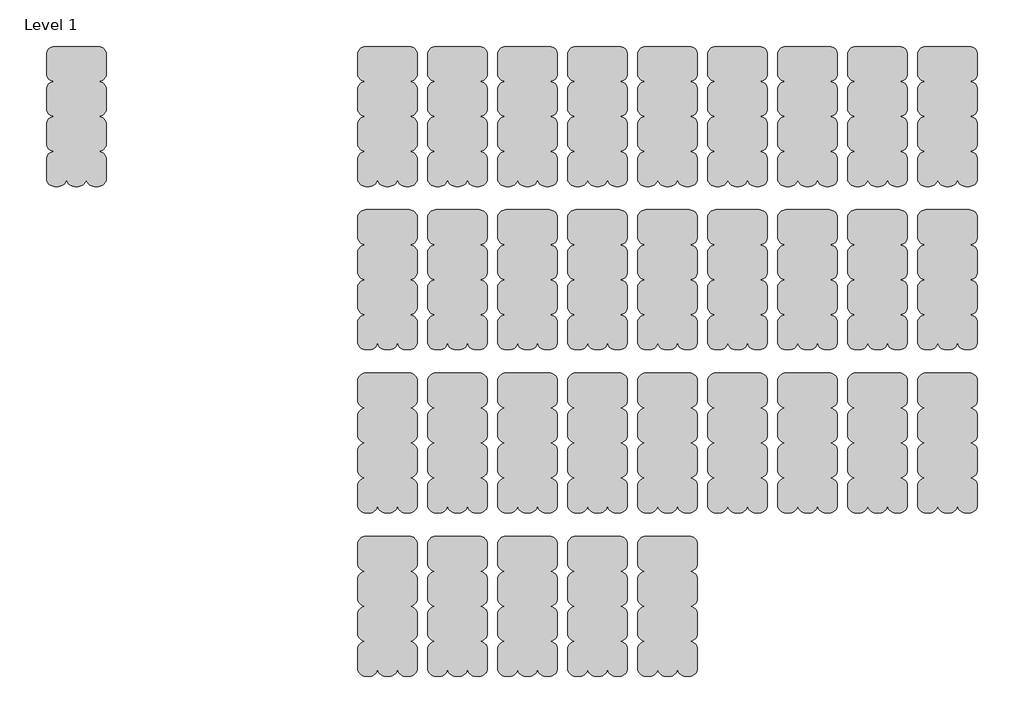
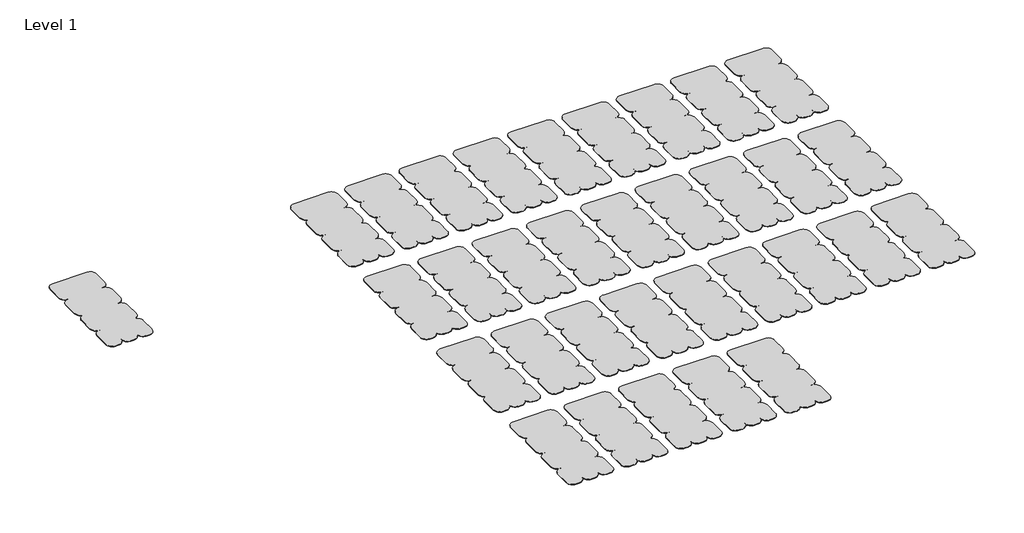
# One storey: 33 proxies.
"""IFC4 building model written with IfcOpenShell, lengths in millimetres."""

from ifc_helpers import new_model, si_unit, origin, place, context, project, spatial, transform, mapped, element, save
from components import proxy_101_frost_12_mm_bd352d98

model = new_model("IFC4")

# Units and contexts
model_context = context("Model", 3, world=origin())
ifc_project = project(units=[si_unit("LENGTHUNIT", "METRE", prefix="MILLI")], contexts=[model_context])

# Site, building, storey
site = spatial("IfcSite", under=ifc_project)
building = spatial("IfcBuilding", under=site)
storey = spatial("IfcBuildingStorey", under=building, Name="Level 1", Elevation=0.0)

# Proxies
placement = place(None, origin())
proxy_101_frost_12_mm_shape = proxy_101_frost_12_mm_bd352d98(model_context)
element("IfcBuildingElementProxy", 1, Name="Wall-Panel-Kirei_USA-EchoScreen-Fifty3_Screen : 108 Sunshine - 12 mm", ObjectType="Wall-Panel-Kirei_USA-EchoScreen-Fifty3_Screen : 108 Sunshine - 12 mm", at=placement, inside=storey, context=model_context, shape_type="MappedRepresentation", body=[
    mapped(proxy_101_frost_12_mm_shape, transform((1981.2, -21640.8, 0.0), x_axis=(1.0, 0.0, 0.0), y_axis=(0.0, 1.0, 0.0), z_axis=(0.0, 0.0, 1.0))),
])
element("IfcBuildingElementProxy", 2, Name="Wall-Panel-Kirei_USA-EchoScreen-Fifty3_Screen : 167 Cinnamon - 12 mm", ObjectType="Wall-Panel-Kirei_USA-EchoScreen-Fifty3_Screen : 167 Cinnamon - 12 mm", at=placement, inside=storey, context=model_context, shape_type="MappedRepresentation", body=[
    mapped(proxy_101_frost_12_mm_shape, transform((4724.4, -21640.8, 0.0), x_axis=(1.0, 0.0, 0.0), y_axis=(0.0, 1.0, 0.0), z_axis=(0.0, 0.0, 1.0))),
])
element("IfcBuildingElementProxy", 3, Name="Wall-Panel-Kirei_USA-EchoScreen-Fifty3_Screen : 274 Orchid - 12 mm", ObjectType="Wall-Panel-Kirei_USA-EchoScreen-Fifty3_Screen : 274 Orchid - 12 mm", at=placement, inside=storey, context=model_context, shape_type="MappedRepresentation", body=[
    mapped(proxy_101_frost_12_mm_shape, transform((8839.2, -21640.8, 0.0), x_axis=(1.0, 0.0, 0.0), y_axis=(0.0, 1.0, 0.0), z_axis=(0.0, 0.0, 1.0))),
])
element("IfcBuildingElementProxy", 4, Name="Wall-Panel-Kirei_USA-EchoScreen-Fifty3_Screen : 295 Mandarin - 12 mm", ObjectType="Wall-Panel-Kirei_USA-EchoScreen-Fifty3_Screen : 295 Mandarin - 12 mm", at=placement, inside=storey, context=model_context, shape_type="MappedRepresentation", body=[
    mapped(proxy_101_frost_12_mm_shape, transform((11582.4, -21640.8, 0.0), x_axis=(1.0, 0.0, 0.0), y_axis=(0.0, 1.0, 0.0), z_axis=(0.0, 0.0, 1.0))),
])
element("IfcBuildingElementProxy", 5, Name="Wall-Panel-Kirei_USA-EchoScreen-Fifty3_Screen : 330 Ivy - 12 mm", ObjectType="Wall-Panel-Kirei_USA-EchoScreen-Fifty3_Screen : 330 Ivy - 12 mm", at=placement, inside=storey, context=model_context, shape_type="MappedRepresentation", body=[
    mapped(proxy_101_frost_12_mm_shape, transform((609.6, -24841.2, 0.0), x_axis=(1.0, 0.0, 0.0), y_axis=(0.0, 1.0, 0.0), z_axis=(0.0, 0.0, 1.0))),
])
element("IfcBuildingElementProxy", 6, Name="Wall-Panel-Kirei_USA-EchoScreen-Fifty3_Screen : 338 Jade - 12 mm", ObjectType="Wall-Panel-Kirei_USA-EchoScreen-Fifty3_Screen : 338 Jade - 12 mm", at=placement, inside=storey, context=model_context, shape_type="MappedRepresentation", body=[
    mapped(proxy_101_frost_12_mm_shape, transform((1981.2, -24841.2, 0.0), x_axis=(1.0, 0.0, 0.0), y_axis=(0.0, 1.0, 0.0), z_axis=(0.0, 0.0, 1.0))),
])
element("IfcBuildingElementProxy", 7, Name="Wall-Panel-Kirei_USA-EchoScreen-Fifty3_Screen : 349 Vineyard - 12 mm", ObjectType="Wall-Panel-Kirei_USA-EchoScreen-Fifty3_Screen : 349 Vineyard - 12 mm", at=placement, inside=storey, context=model_context, shape_type="MappedRepresentation", body=[
    mapped(proxy_101_frost_12_mm_shape, transform((3352.8, -24841.2, 0.0), x_axis=(1.0, 0.0, 0.0), y_axis=(0.0, 1.0, 0.0), z_axis=(0.0, 0.0, 1.0))),
])
element("IfcBuildingElementProxy", 8, Name="Wall-Panel-Kirei_USA-EchoScreen-Fifty3_Screen : 551 Duck Egg - 12 mm", ObjectType="Wall-Panel-Kirei_USA-EchoScreen-Fifty3_Screen : 551 Duck Egg - 12 mm", at=placement, inside=storey, context=model_context, shape_type="MappedRepresentation", body=[
    mapped(proxy_101_frost_12_mm_shape, transform((10210.8, -28041.6, 0.0), x_axis=(1.0, 0.0, 0.0), y_axis=(0.0, 1.0, 0.0), z_axis=(0.0, 0.0, 1.0))),
])
element("IfcBuildingElementProxy", 9, Name="Wall-Panel-Kirei_USA-EchoScreen-Fifty3_Screen : 579 Pistachio - 12 mm", ObjectType="Wall-Panel-Kirei_USA-EchoScreen-Fifty3_Screen : 579 Pistachio - 12 mm", at=placement, inside=storey, context=model_context, shape_type="MappedRepresentation", body=[
    mapped(proxy_101_frost_12_mm_shape, transform((609.6, -31242.0, 0.0), x_axis=(1.0, 0.0, 0.0), y_axis=(0.0, 1.0, 0.0), z_axis=(0.0, 0.0, 1.0))),
])
element("IfcBuildingElementProxy", 10, Name="Wall-Panel-Kirei_USA-EchoScreen-Fifty3_Screen : 633 Pacific - 12 mm", ObjectType="Wall-Panel-Kirei_USA-EchoScreen-Fifty3_Screen : 633 Pacific - 12 mm", at=placement, inside=storey, context=model_context, shape_type="MappedRepresentation", body=[
    mapped(proxy_101_frost_12_mm_shape, transform((3352.8, -31242.0, 0.0), x_axis=(1.0, 0.0, 0.0), y_axis=(0.0, 1.0, 0.0), z_axis=(0.0, 0.0, 1.0))),
])
element("IfcBuildingElementProxy", 11, Name="Wall-Panel-Kirei_USA-EchoScreen-Fifty3_Screen : 660 Coronet - 12 mm", ObjectType="Wall-Panel-Kirei_USA-EchoScreen-Fifty3_Screen : 660 Coronet - 12 mm", at=placement, inside=storey, context=model_context, shape_type="MappedRepresentation", body=[
    mapped(proxy_101_frost_12_mm_shape, transform((4724.4, -31242.0, 0.0), x_axis=(1.0, 0.0, 0.0), y_axis=(0.0, 1.0, 0.0), z_axis=(0.0, 0.0, 1.0))),
])
element("IfcBuildingElementProxy", 12, Name="Wall-Panel-Kirei_USA-EchoScreen-Fifty3_Screen : 101 Frost - 12 mm", ObjectType="Wall-Panel-Kirei_USA-EchoScreen-Fifty3_Screen : 101 Frost - 12 mm", at=placement, inside=storey, context=model_context, shape_type="MappedRepresentation", body=[
    mapped(proxy_101_frost_12_mm_shape, transform((609.6, -21640.8, 0.0), x_axis=(1.0, 0.0, 0.0), y_axis=(0.0, 1.0, 0.0), z_axis=(0.0, 0.0, 1.0))),
])
element("IfcBuildingElementProxy", 13, Name="Wall-Panel-Kirei_USA-EchoScreen-Fifty3_Screen : 101 Frost - 12 mm", ObjectType="Wall-Panel-Kirei_USA-EchoScreen-Fifty3_Screen : 101 Frost - 12 mm", at=placement, inside=storey, context=model_context, shape_type="MappedRepresentation", body=[
    mapped(proxy_101_frost_12_mm_shape, transform((-5486.4, -21640.8, 0.0), x_axis=(1.0, 0.0, 0.0), y_axis=(0.0, 1.0, 0.0), z_axis=(0.0, 0.0, 1.0))),
])
element("IfcBuildingElementProxy", 14, Name="Wall-Panel-Kirei_USA-EchoScreen-Fifty3_Screen : 124 Ochre - 12 mm", ObjectType="Wall-Panel-Kirei_USA-EchoScreen-Fifty3_Screen : 124 Ochre - 12 mm", at=placement, inside=storey, context=model_context, shape_type="MappedRepresentation", body=[
    mapped(proxy_101_frost_12_mm_shape, transform((3352.8, -21640.8, 0.0), x_axis=(1.0, 0.0, 0.0), y_axis=(0.0, 1.0, 0.0), z_axis=(0.0, 0.0, 1.0))),
])
element("IfcBuildingElementProxy", 15, Name="Wall-Panel-Kirei_USA-EchoScreen-Fifty3_Screen : 193 Rouge - 12 mm", ObjectType="Wall-Panel-Kirei_USA-EchoScreen-Fifty3_Screen : 193 Rouge - 12 mm", at=placement, inside=storey, context=model_context, shape_type="MappedRepresentation", body=[
    mapped(proxy_101_frost_12_mm_shape, transform((6096.0, -21640.8, 0.0), x_axis=(1.0, 0.0, 0.0), y_axis=(0.0, 1.0, 0.0), z_axis=(0.0, 0.0, 1.0))),
])
element("IfcBuildingElementProxy", 16, Name="Wall-Panel-Kirei_USA-EchoScreen-Fifty3_Screen : 269 Wine - 12 mm", ObjectType="Wall-Panel-Kirei_USA-EchoScreen-Fifty3_Screen : 269 Wine - 12 mm", at=placement, inside=storey, context=model_context, shape_type="MappedRepresentation", body=[
    mapped(proxy_101_frost_12_mm_shape, transform((7467.6, -21640.8, 0.0), x_axis=(1.0, 0.0, 0.0), y_axis=(0.0, 1.0, 0.0), z_axis=(0.0, 0.0, 1.0))),
])
element("IfcBuildingElementProxy", 17, Name="Wall-Panel-Kirei_USA-EchoScreen-Fifty3_Screen : 276 Lavender - 12 mm", ObjectType="Wall-Panel-Kirei_USA-EchoScreen-Fifty3_Screen : 276 Lavender - 12 mm", at=placement, inside=storey, context=model_context, shape_type="MappedRepresentation", body=[
    mapped(proxy_101_frost_12_mm_shape, transform((10210.8, -21640.8, 0.0), x_axis=(1.0, 0.0, 0.0), y_axis=(0.0, 1.0, 0.0), z_axis=(0.0, 0.0, 1.0))),
])
element("IfcBuildingElementProxy", 18, Name="Wall-Panel-Kirei_USA-EchoScreen-Fifty3_Screen : 365 Navy - 12 mm", ObjectType="Wall-Panel-Kirei_USA-EchoScreen-Fifty3_Screen : 365 Navy - 12 mm", at=placement, inside=storey, context=model_context, shape_type="MappedRepresentation", body=[
    mapped(proxy_101_frost_12_mm_shape, transform((4724.4, -24841.2, 0.0), x_axis=(1.0, 0.0, 0.0), y_axis=(0.0, 1.0, 0.0), z_axis=(0.0, 0.0, 1.0))),
])
element("IfcBuildingElementProxy", 19, Name="Wall-Panel-Kirei_USA-EchoScreen-Fifty3_Screen : 381 Lime Splice - 12 mm", ObjectType="Wall-Panel-Kirei_USA-EchoScreen-Fifty3_Screen : 381 Lime Splice - 12 mm", at=placement, inside=storey, context=model_context, shape_type="MappedRepresentation", body=[
    mapped(proxy_101_frost_12_mm_shape, transform((6096.0, -24841.2, 0.0), x_axis=(1.0, 0.0, 0.0), y_axis=(0.0, 1.0, 0.0), z_axis=(0.0, 0.0, 1.0))),
])
element("IfcBuildingElementProxy", 20, Name="Wall-Panel-Kirei_USA-EchoScreen-Fifty3_Screen : 384 Olive - 12 mm", ObjectType="Wall-Panel-Kirei_USA-EchoScreen-Fifty3_Screen : 384 Olive - 12 mm", at=placement, inside=storey, context=model_context, shape_type="MappedRepresentation", body=[
    mapped(proxy_101_frost_12_mm_shape, transform((7467.6, -24841.2, 0.0), x_axis=(1.0, 0.0, 0.0), y_axis=(0.0, 1.0, 0.0), z_axis=(0.0, 0.0, 1.0))),
])
element("IfcBuildingElementProxy", 21, Name="Wall-Panel-Kirei_USA-EchoScreen-Fifty3_Screen : 402 Pebble - 12 mm", ObjectType="Wall-Panel-Kirei_USA-EchoScreen-Fifty3_Screen : 402 Pebble - 12 mm", at=placement, inside=storey, context=model_context, shape_type="MappedRepresentation", body=[
    mapped(proxy_101_frost_12_mm_shape, transform((8839.2, -24841.2, 0.0), x_axis=(1.0, 0.0, 0.0), y_axis=(0.0, 1.0, 0.0), z_axis=(0.0, 0.0, 1.0))),
])
element("IfcBuildingElementProxy", 22, Name="Wall-Panel-Kirei_USA-EchoScreen-Fifty3_Screen : 442 Gray - 12 mm", ObjectType="Wall-Panel-Kirei_USA-EchoScreen-Fifty3_Screen : 442 Gray - 12 mm", at=placement, inside=storey, context=model_context, shape_type="MappedRepresentation", body=[
    mapped(proxy_101_frost_12_mm_shape, transform((10210.8, -24841.2, 0.0), x_axis=(1.0, 0.0, 0.0), y_axis=(0.0, 1.0, 0.0), z_axis=(0.0, 0.0, 1.0))),
])
element("IfcBuildingElementProxy", 23, Name="Wall-Panel-Kirei_USA-EchoScreen-Fifty3_Screen : 444 Smoke - 12 mm", ObjectType="Wall-Panel-Kirei_USA-EchoScreen-Fifty3_Screen : 444 Smoke - 12 mm", at=placement, inside=storey, context=model_context, shape_type="MappedRepresentation", body=[
    mapped(proxy_101_frost_12_mm_shape, transform((11582.4, -24841.2, 0.0), x_axis=(1.0, 0.0, 0.0), y_axis=(0.0, 1.0, 0.0), z_axis=(0.0, 0.0, 1.0))),
])
element("IfcBuildingElementProxy", 24, Name="Wall-Panel-Kirei_USA-EchoScreen-Fifty3_Screen : 447 Slate - 12 mm", ObjectType="Wall-Panel-Kirei_USA-EchoScreen-Fifty3_Screen : 447 Slate - 12 mm", at=placement, inside=storey, context=model_context, shape_type="MappedRepresentation", body=[
    mapped(proxy_101_frost_12_mm_shape, transform((609.6, -28041.6, 0.0), x_axis=(1.0, 0.0, 0.0), y_axis=(0.0, 1.0, 0.0), z_axis=(0.0, 0.0, 1.0))),
])
element("IfcBuildingElementProxy", 25, Name="Wall-Panel-Kirei_USA-EchoScreen-Fifty3_Screen : 454 Mushroom - 12 mm", ObjectType="Wall-Panel-Kirei_USA-EchoScreen-Fifty3_Screen : 454 Mushroom - 12 mm", at=placement, inside=storey, context=model_context, shape_type="MappedRepresentation", body=[
    mapped(proxy_101_frost_12_mm_shape, transform((1981.2, -28041.6, 0.0), x_axis=(1.0, 0.0, 0.0), y_axis=(0.0, 1.0, 0.0), z_axis=(0.0, 0.0, 1.0))),
])
element("IfcBuildingElementProxy", 26, Name="Wall-Panel-Kirei_USA-EchoScreen-Fifty3_Screen : 468 Vanilla - 12 mm", ObjectType="Wall-Panel-Kirei_USA-EchoScreen-Fifty3_Screen : 468 Vanilla - 12 mm", at=placement, inside=storey, context=model_context, shape_type="MappedRepresentation", body=[
    mapped(proxy_101_frost_12_mm_shape, transform((3352.8, -28041.6, 0.0), x_axis=(1.0, 0.0, 0.0), y_axis=(0.0, 1.0, 0.0), z_axis=(0.0, 0.0, 1.0))),
])
element("IfcBuildingElementProxy", 27, Name="Wall-Panel-Kirei_USA-EchoScreen-Fifty3_Screen : 487 Blush - 12 mm", ObjectType="Wall-Panel-Kirei_USA-EchoScreen-Fifty3_Screen : 487 Blush - 12 mm", at=placement, inside=storey, context=model_context, shape_type="MappedRepresentation", body=[
    mapped(proxy_101_frost_12_mm_shape, transform((4724.4, -28041.6, 0.0), x_axis=(1.0, 0.0, 0.0), y_axis=(0.0, 1.0, 0.0), z_axis=(0.0, 0.0, 1.0))),
])
element("IfcBuildingElementProxy", 28, Name="Wall-Panel-Kirei_USA-EchoScreen-Fifty3_Screen : 500 White - 12 mm", ObjectType="Wall-Panel-Kirei_USA-EchoScreen-Fifty3_Screen : 500 White - 12 mm", at=placement, inside=storey, context=model_context, shape_type="MappedRepresentation", body=[
    mapped(proxy_101_frost_12_mm_shape, transform((6096.0, -28041.6, 0.0), x_axis=(1.0, 0.0, 0.0), y_axis=(0.0, 1.0, 0.0), z_axis=(0.0, 0.0, 1.0))),
])
element("IfcBuildingElementProxy", 29, Name="Wall-Panel-Kirei_USA-EchoScreen-Fifty3_Screen : 542 Black - 12 mm", ObjectType="Wall-Panel-Kirei_USA-EchoScreen-Fifty3_Screen : 542 Black - 12 mm", at=placement, inside=storey, context=model_context, shape_type="MappedRepresentation", body=[
    mapped(proxy_101_frost_12_mm_shape, transform((7467.6, -28041.6, 0.0), x_axis=(1.0, 0.0, 0.0), y_axis=(0.0, 1.0, 0.0), z_axis=(0.0, 0.0, 1.0))),
])
element("IfcBuildingElementProxy", 30, Name="Wall-Panel-Kirei_USA-EchoScreen-Fifty3_Screen : 550 Onyx - 12 mm", ObjectType="Wall-Panel-Kirei_USA-EchoScreen-Fifty3_Screen : 550 Onyx - 12 mm", at=placement, inside=storey, context=model_context, shape_type="MappedRepresentation", body=[
    mapped(proxy_101_frost_12_mm_shape, transform((8839.2, -28041.6, 0.0), x_axis=(1.0, 0.0, 0.0), y_axis=(0.0, 1.0, 0.0), z_axis=(0.0, 0.0, 1.0))),
])
element("IfcBuildingElementProxy", 31, Name="Wall-Panel-Kirei_USA-EchoScreen-Fifty3_Screen : 576 Magenta - 12 mm", ObjectType="Wall-Panel-Kirei_USA-EchoScreen-Fifty3_Screen : 576 Magenta - 12 mm", at=placement, inside=storey, context=model_context, shape_type="MappedRepresentation", body=[
    mapped(proxy_101_frost_12_mm_shape, transform((11582.4, -28041.6, 0.0), x_axis=(1.0, 0.0, 0.0), y_axis=(0.0, 1.0, 0.0), z_axis=(0.0, 0.0, 1.0))),
])
element("IfcBuildingElementProxy", 32, Name="Wall-Panel-Kirei_USA-EchoScreen-Fifty3_Screen : 580 Sage - 12 mm", ObjectType="Wall-Panel-Kirei_USA-EchoScreen-Fifty3_Screen : 580 Sage - 12 mm", at=placement, inside=storey, context=model_context, shape_type="MappedRepresentation", body=[
    mapped(proxy_101_frost_12_mm_shape, transform((1981.2, -31242.0, 0.0), x_axis=(1.0, 0.0, 0.0), y_axis=(0.0, 1.0, 0.0), z_axis=(0.0, 0.0, 1.0))),
])
element("IfcBuildingElementProxy", 33, Name="Wall-Panel-Kirei_USA-EchoScreen-Fifty3_Screen : 908 Cream - 12 mm", ObjectType="Wall-Panel-Kirei_USA-EchoScreen-Fifty3_Screen : 908 Cream - 12 mm", at=placement, inside=storey, context=model_context, shape_type="MappedRepresentation", body=[
    mapped(proxy_101_frost_12_mm_shape, transform((6096.0, -31242.0, 0.0), x_axis=(1.0, 0.0, 0.0), y_axis=(0.0, 1.0, 0.0), z_axis=(0.0, 0.0, 1.0))),
])

save(model, "model.ifc")
